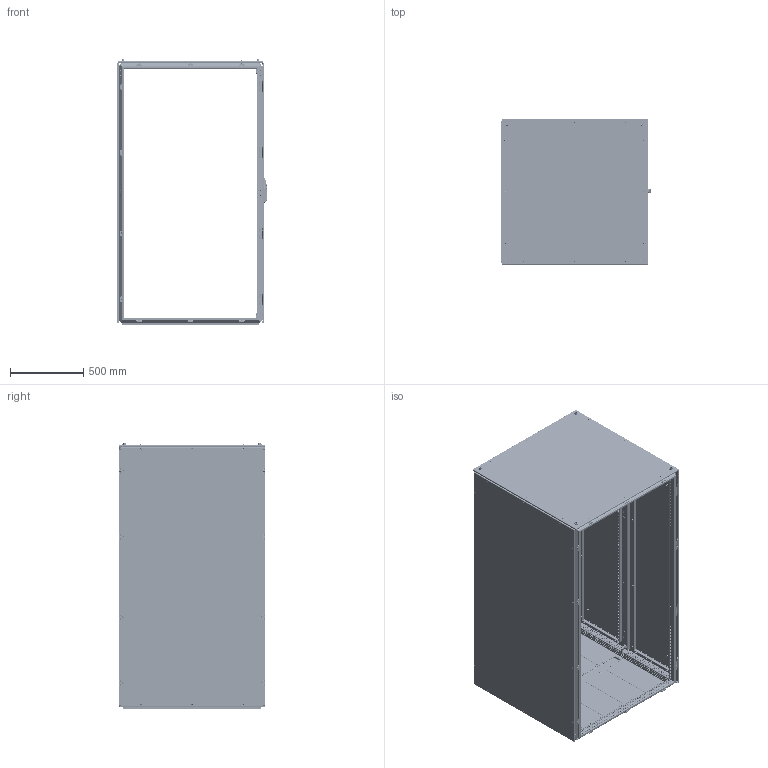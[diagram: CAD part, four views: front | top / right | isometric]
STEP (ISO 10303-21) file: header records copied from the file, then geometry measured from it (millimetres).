
FILE_DESCRIPTION(('STEP AP203'), '1');
FILE_NAME('ØÍÑ ÊÑ PRO II Êîðïóñ ÑÁ', '', ('UNSPECIFIED'), ('UNSPECIFIED'), 'C3D Converter', 'C3D Toolkit', '');
FILE_SCHEMA(('CONFIG_CONTROL_DESIGN'));
Length unit declared in the file: millimetre
Products named in the file (56): 3210.180.100.100; 3000; 3007.175; 3007.75; 3007.200; 3006; 3009.04; 3009.04.01; 3009.04.2; 3009.04.01.2; 3301; 3310; 3311; 3302; 3211; 3409; 3415; 3425; 3426; 3422.01; 3412; 3411; 2952; 3009.05; 3009.05.01; 3622.01; 3417; 3427; 3010
Assembly tree (429 placements, depth 6):
  3210.180.100.100
    3000
      3000
      (unnamed)  x104
      3007.175  x2
      (unnamed)  x38
      3007.75  x2
      3007.200  x6
      3006
      3009.04  x12
        3009.04.01
        (unnamed)
        (unnamed)
      3009.04.2  x17
        3009.04.01.2
        (unnamed)
        (unnamed)
    3301
      3310
        3311
        (unnamed)
      (unnamed)  x12
      (unnamed)  x12
      (unnamed)  x4
      (unnamed)  x4
    3302
      3211
      (unnamed)  x2
      (unnamed)  x14
    3409
      3415
        3425
          3426
          3422.01  x4
          (unnamed)  x12
          (unnamed)  x8
          (unnamed)  x2
        3412  x2
        3411  x2
        (unnamed)  x4
        (unnamed)  x12
        (unnamed)  x20
        (unnamed)  x8
        2952
          (unnamed)
            (unnamed)
            (unnamed)
            (unnamed)
            (unnamed)
            (unnamed)
        (unnamed)  x2
        3009.05  x4
          3009.05.01
          (unnamed)
          (unnamed)
        3622.01  x4
        (unnamed)  x4
      3417
        3427
          3426
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Bounding box: 1023.93 x 997 x 1816 mm (x, y, z)
Volume: 14739642.8 mm3; surface area: 18829219.4 mm2
Topology: 556 solids, 556 shells, 30352 faces, 82756 edges, 54258 vertices
Faces by surface type: plane 19868, cylinder 7315, cone 1753, bspline 787, torus 498, extrusion 90, sphere 41
Full cylindrical faces by diameter (mm): 0.5 x32, 2.6 x8, 3.71 x8, 4.134 x158, 4.3 x2, 4.5 x2578, 4.8 x40, 4.917 x32, 5 x218, 5.2 x1, 5.5 x12, 5.8 x54, 6 x77, 6.1 x8, 6.4 x8, 6.6 x32, 6.75 x32, 6.8 x216, 7 x112, 7.3 x32, 7.5 x102, 8 x140, 8.3 x16, 8.5 x13, 9.2 x90, 10 x47, 10.106 x8, 10.5 x10, 11.5 x14, 12 x44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
Entity records: 719567 total; most frequent: CARTESIAN_POINT 271607, ORIENTED_EDGE 85242, DIRECTION 79709, EDGE_CURVE 42621, VECTOR 32913, LINE 32868, VERTEX_POINT 29849, EDGE_LOOP 28252
